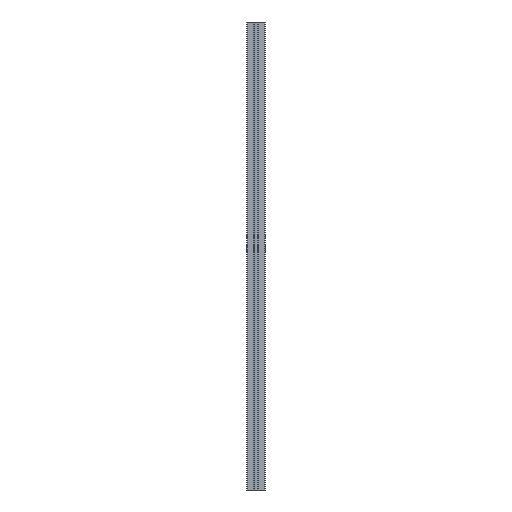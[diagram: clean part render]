
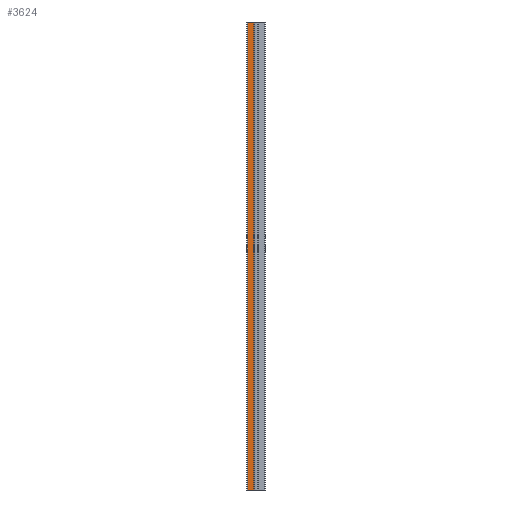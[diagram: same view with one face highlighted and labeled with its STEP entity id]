
A CAD part, front view. The second image highlights one B-rep face of the part: STEP entity #3624.
In plain terms, the highlighted planar face has unit normal (0, -1, 0).
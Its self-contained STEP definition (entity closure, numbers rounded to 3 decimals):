
#35=PLANE('',#3911);
#149=FACE_OUTER_BOUND('',#339,.T.);
#339=EDGE_LOOP('',(#2518,#2519,#2520,#2521));
#556=LINE('',#5652,#894);
#558=LINE('',#5656,#896);
#559=LINE('',#5658,#897);
#560=LINE('',#5659,#898);
#894=VECTOR('',#4508,10.);
#896=VECTOR('',#4512,10.);
#897=VECTOR('',#4513,10.);
#898=VECTOR('',#4514,10.);
#1488=VERTEX_POINT('',#5649);
#1489=VERTEX_POINT('',#5651);
#1490=VERTEX_POINT('',#5655);
#1491=VERTEX_POINT('',#5657);
#1908=EDGE_CURVE('',#1488,#1489,#556,.T.);
#1910=EDGE_CURVE('',#1488,#1490,#558,.T.);
#1911=EDGE_CURVE('',#1490,#1491,#559,.T.);
#1912=EDGE_CURVE('',#1491,#1489,#560,.T.);
#2518=ORIENTED_EDGE('',*,*,#1910,.T.);
#2519=ORIENTED_EDGE('',*,*,#1911,.T.);
#2520=ORIENTED_EDGE('',*,*,#1912,.T.);
#2521=ORIENTED_EDGE('',*,*,#1908,.F.);
#3624=ADVANCED_FACE('',(#149),#35,.F.);
#3911=AXIS2_PLACEMENT_3D('',#5654,#4510,#4511);
#4508=DIRECTION('',(0.,0.,-1.));
#4510=DIRECTION('center_axis',(0.,1.,0.));
#4511=DIRECTION('ref_axis',(1.,0.,0.));
#4512=DIRECTION('',(-1.,0.,0.));
#4513=DIRECTION('',(0.,0.,-1.));
#4514=DIRECTION('',(1.,0.,0.));
#5649=CARTESIAN_POINT('',(-4.9,-20.,0.));
#5651=CARTESIAN_POINT('',(-4.9,-20.,-1000.));
#5652=CARTESIAN_POINT('',(-4.9,-20.,0.));
#5654=CARTESIAN_POINT('Origin',(-18.,-20.,0.));
#5655=CARTESIAN_POINT('',(-18.,-20.,0.));
#5656=CARTESIAN_POINT('',(-4.9,-20.,0.));
#5657=CARTESIAN_POINT('',(-18.,-20.,-1000.));
#5658=CARTESIAN_POINT('',(-18.,-20.,0.));
#5659=CARTESIAN_POINT('',(-4.9,-20.,-1000.));
